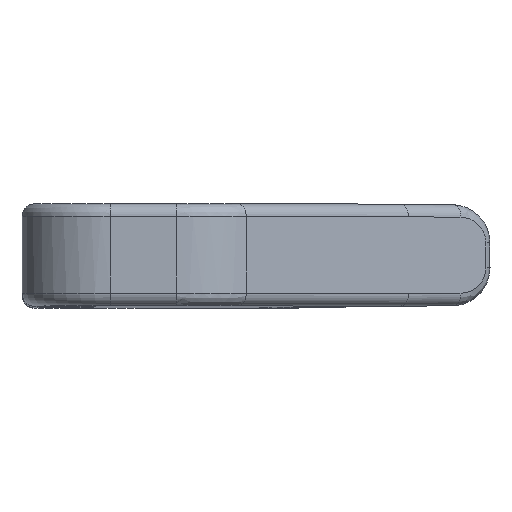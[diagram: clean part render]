
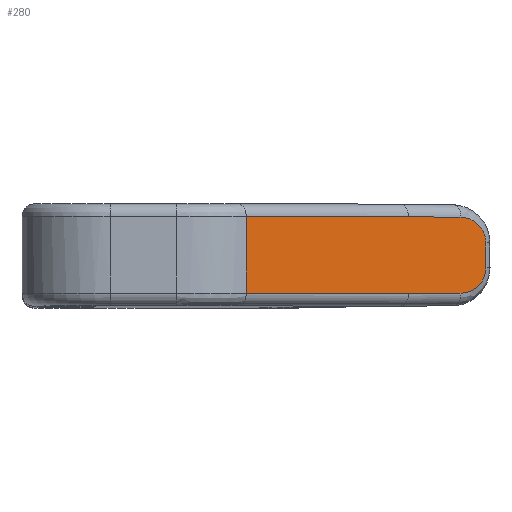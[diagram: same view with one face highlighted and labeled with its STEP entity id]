
A CAD part, top view. The second image highlights one B-rep face of the part: STEP entity #280.
In plain terms, the highlighted planar face has unit normal (0.683, 0, 0.73).
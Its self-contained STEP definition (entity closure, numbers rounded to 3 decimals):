
#280=ADVANCED_FACE('',(#425),#348,.T.);
#348=PLANE('',#2042);
#425=FACE_OUTER_BOUND('',#544,.T.);
#544=EDGE_LOOP('',(#1169,#1170,#1171,#1172,#1173,#1174,#1175,#1176));
#632=LINE('',#2839,#756);
#656=LINE('',#3273,#780);
#671=LINE('',#3319,#795);
#688=LINE('',#3363,#812);
#689=LINE('',#3367,#813);
#690=LINE('',#3371,#814);
#756=VECTOR('',#2227,1.);
#780=VECTOR('',#2411,1.);
#795=VECTOR('',#2460,1.);
#812=VECTOR('',#2499,1.);
#813=VECTOR('',#2502,1.);
#814=VECTOR('',#2505,1.);
#1169=ORIENTED_EDGE('',*,*,#1698,.F.);
#1170=ORIENTED_EDGE('',*,*,#1745,.T.);
#1171=ORIENTED_EDGE('',*,*,#1746,.T.);
#1172=ORIENTED_EDGE('',*,*,#1747,.T.);
#1173=ORIENTED_EDGE('',*,*,#1748,.T.);
#1174=ORIENTED_EDGE('',*,*,#1749,.T.);
#1175=ORIENTED_EDGE('',*,*,#1721,.F.);
#1176=ORIENTED_EDGE('',*,*,#1611,.F.);
#1439=VERTEX_POINT('',#2840);
#1440=VERTEX_POINT('',#2841);
#1488=VERTEX_POINT('',#3272);
#1503=VERTEX_POINT('',#3320);
#1519=VERTEX_POINT('',#3364);
#1520=VERTEX_POINT('',#3366);
#1521=VERTEX_POINT('',#3368);
#1522=VERTEX_POINT('',#3370);
#1611=EDGE_CURVE('',#1439,#1440,#632,.T.);
#1698=EDGE_CURVE('',#1488,#1439,#656,.T.);
#1721=EDGE_CURVE('',#1440,#1503,#671,.T.);
#1745=EDGE_CURVE('',#1488,#1519,#688,.T.);
#1746=EDGE_CURVE('',#1519,#1520,#1885,.T.);
#1747=EDGE_CURVE('',#1520,#1521,#689,.T.);
#1748=EDGE_CURVE('',#1521,#1522,#1886,.T.);
#1749=EDGE_CURVE('',#1522,#1503,#690,.T.);
#1885=ELLIPSE('',#2040,1.347,1.);
#1886=ELLIPSE('',#2041,1.347,1.);
#2040=AXIS2_PLACEMENT_3D('',#3365,#2500,#2501);
#2041=AXIS2_PLACEMENT_3D('',#3369,#2503,#2504);
#2042=AXIS2_PLACEMENT_3D('',#3372,#2506,#2507);
#2227=DIRECTION('',(0.,1.,0.));
#2411=DIRECTION('',(-0.73,0.,0.683));
#2460=DIRECTION('',(0.73,0.,-0.683));
#2499=DIRECTION('',(0.73,0.006,-0.683));
#2500=DIRECTION('',(0.683,0.,0.73));
#2501=DIRECTION('',(-0.73,-0.013,0.683));
#2502=DIRECTION('',(0.,1.,0.));
#2503=DIRECTION('',(0.683,0.,0.73));
#2504=DIRECTION('',(0.73,-0.013,-0.683));
#2505=DIRECTION('',(-0.73,0.006,0.683));
#2506=DIRECTION('',(0.683,0.,0.73));
#2507=DIRECTION('',(0.73,0.,-0.683));
#2839=CARTESIAN_POINT('',(-66.471,-136.516,26.799));
#2840=CARTESIAN_POINT('',(-66.471,-114.012,26.799));
#2841=CARTESIAN_POINT('',(-66.471,-110.99,26.799));
#3272=CARTESIAN_POINT('',(-60.07,-114.012,20.813));
#3273=CARTESIAN_POINT('',(-58.493,-114.012,19.338));
#3319=CARTESIAN_POINT('',(-58.492,-110.99,19.337));
#3320=CARTESIAN_POINT('',(-60.087,-110.99,20.829));
#3363=CARTESIAN_POINT('',(-61.873,-114.027,22.499));
#3364=CARTESIAN_POINT('',(-58.012,-113.995,18.888));
#3365=CARTESIAN_POINT('',(-58.013,-112.995,18.889));
#3366=CARTESIAN_POINT('',(-57.029,-112.987,17.968));
#3367=CARTESIAN_POINT('',(-57.029,-112.501,17.968));
#3368=CARTESIAN_POINT('',(-57.029,-112.015,17.968));
#3369=CARTESIAN_POINT('',(-58.013,-112.007,18.889));
#3370=CARTESIAN_POINT('',(-58.012,-111.007,18.888));
#3371=CARTESIAN_POINT('',(-61.873,-110.975,22.499));
#3372=CARTESIAN_POINT('',(-61.879,-112.501,22.505));
